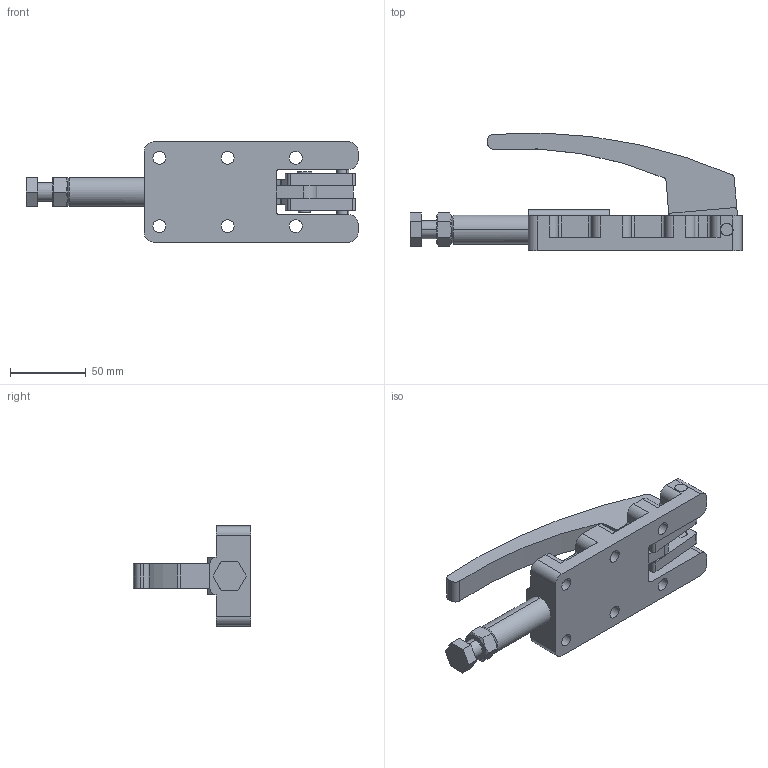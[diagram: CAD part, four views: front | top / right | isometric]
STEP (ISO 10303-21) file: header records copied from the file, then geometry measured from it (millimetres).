
FILE_DESCRIPTION (( 'STEP AP203' ), '1' );
FILE_NAME ('KF-505.STEP', '2011-05-23T11:49:54', ( 'Usuario' ), ( '' ), 'SwSTEP 2.0', 'SolidWorks 2011', '' );
FILE_SCHEMA (( 'CONFIG_CONTROL_DESIGN' ));
Length unit declared in the file: millimetre
Products named in the file (11): 06.50041; 06.50017; 08.10046; 01.30002; 03.20044; 02.30015; KF-505; PP-M12; 12.50022; 11.50004; 16.20063
Assembly tree (11 placements, depth 3):
  KF-505
    PP-M12
      11.50004
      12.50022
    06.50017
    16.20063  x2
    03.20044
    06.50041
    01.30002
    02.30015
    08.10046
Bounding box: 218.95 x 77.67 x 66 mm (x, y, z)
Volume: 229109.4 mm3; surface area: 76014.5 mm2
Topology: 10 solids, 10 shells, 228 faces, 602 edges, 390 vertices
Faces by surface type: cylinder 114, plane 91, cone 23
Entity records: 8362 total; most frequent: CARTESIAN_POINT 1478, DIRECTION 1255, ORIENTED_EDGE 1160, EDGE_CURVE 580, AXIS2_PLACEMENT_3D 469, VERTEX_POINT 380, LINE 317, VECTOR 317
